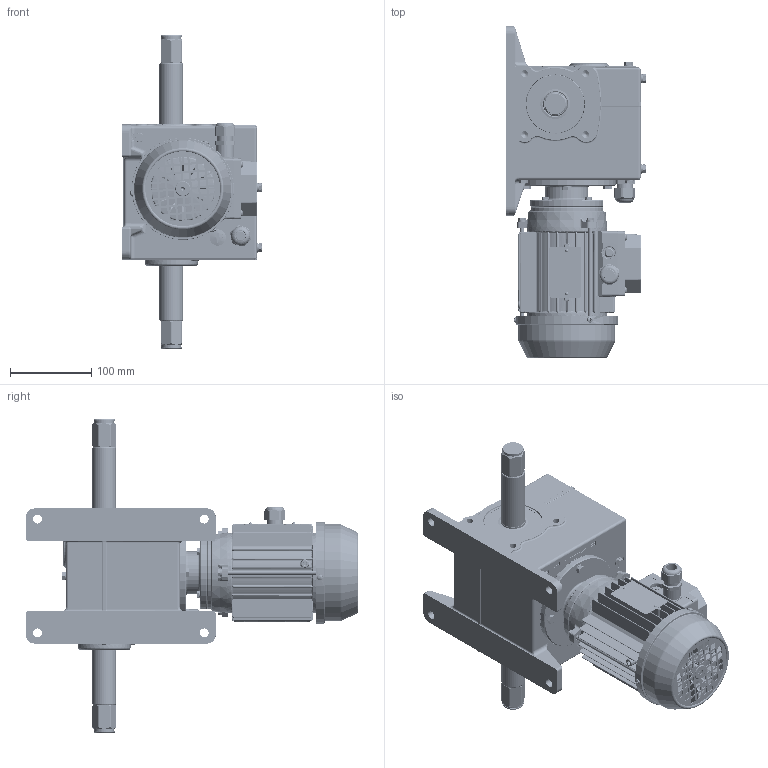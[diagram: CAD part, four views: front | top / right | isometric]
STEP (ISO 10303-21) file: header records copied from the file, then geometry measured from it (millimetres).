
FILE_DESCRIPTION (( 'STEP AP214' ), '1' );
FILE_NAME ('Elektroantrieb_EWA_10149249.STEP', '2021-01-21T09:06:42', ( '' ), ( '' ), 'SwSTEP 2.0', 'SolidWorks 2020', '' );
FILE_SCHEMA (( 'AUTOMOTIVE_DESIGN' ));
Length unit declared in the file: millimetre
Products named in the file (31): Elektroteil_10001639; Werkzeug_10028566; Scheibe_10002061; Dichtelement_10047460; Schraube_10002078; 010193006_EWA_10_3D-Modell_DE_10193006_END 20-90000.0002.6299 m.s.B.; 010200577_EWA_10_3D__DE; Schraube_10018291; 010200576_EWA_10_3D__DE_ohne Inhalt; Elektroantrieb_EWA_10149249; Elektroantrieb_EWA_10041583_ohne Inhalt; 010183301__3D-Teil_DE_90000.0002.5790_10183301; 010191515_Normteil_Kaufteil_3D-Modell_DE_10191515; 010197604_EWA_3D-Modell_DE_10197604; Elektroteil_10001640; Kurbel_10028565; Elektroteil_10007290; Schraube_10028863; Dichtelement_10001203; Deckel_10000048; Kennzeichnung_10018531; 010202066_EWA_3D__DE; Dichtelement_10005546; Schraube_10014320; Wälzlager_10001868; 010200597_Normteil_Kaufteil_3D__DE_DIN EN 24017 - M5 x 16-N; Kennzeichnung_10001854; Dichtelement_10000401_F〉 Werkzeug<Standard>; 010195801_EWA_10_3D-Modell_DE_90000.0002.4296_10195801; Elektroteil_10028709; Welle_10041390
Assembly tree (50 placements, depth 4):
  Elektroantrieb_EWA_10149249
    Elektroantrieb_EWA_10041583_ohne Inhalt
      010193006_EWA_10_3D-Modell_DE_10193006_END 20-90000.0002.6299 m.s.B.
      Dichtelement_10047460
        Dichtelement_10000401_F〉 Werkzeug<Standard>
        Schraube_10028863
        Kurbel_10028565
        Werkzeug_10028566
      Deckel_10000048
      Schraube_10018291  x4
      Elektroteil_10007290
        Elektroteil_10001639
        Elektroteil_10001640
      Dichtelement_10001203
      Dichtelement_10005546
      Elektroteil_10028709
      Scheibe_10002061  x8
      010191515_Normteil_Kaufteil_3D-Modell_DE_10191515  x4
      010183301__3D-Teil_DE_90000.0002.5790_10183301
      Wälzlager_10001868
      010195801_EWA_10_3D-Modell_DE_90000.0002.4296_10195801
        Welle_10041390
    Schraube_10002078  x4
    Scheibe_10002061
    Schraube_10014320
    Kennzeichnung_10018531
    Kennzeichnung_10001854
    010200576_EWA_10_3D__DE_ohne Inhalt
      010200577_EWA_10_3D__DE
      010197604_EWA_3D-Modell_DE_10197604
      010200597_Normteil_Kaufteil_3D__DE_DIN EN 24017 - M5 x 16-N  x4
    010202066_EWA_3D__DE
Bounding box: 171 x 408 x 385 mm (x, y, z)
Volume: 1971411.5 mm3; surface area: 846792.8 mm2
Topology: 91 solids, 92 shells, 7753 faces, 19872 edges, 12476 vertices
Faces by surface type: plane 3011, bspline 1610, cylinder 1549, cone 779, torus 633, sphere 171
Entity records: 467814 total; most frequent: CARTESIAN_POINT 242900, ORIENTED_EDGE 37728, DIRECTION 29666, EDGE_CURVE 18864, VERTEX_POINT 11977, AXIS2_PLACEMENT_3D 10249, LINE 9168, VECTOR 9168
